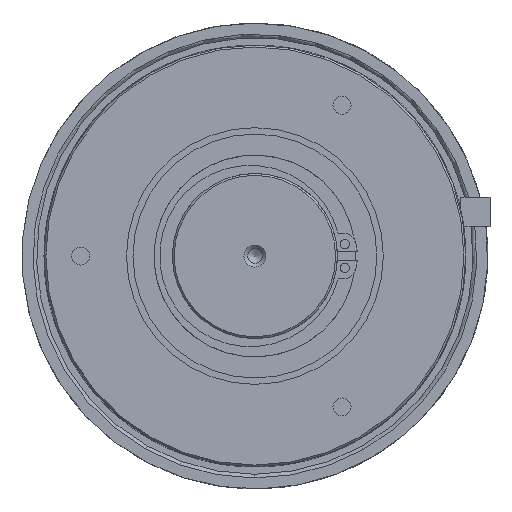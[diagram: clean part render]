
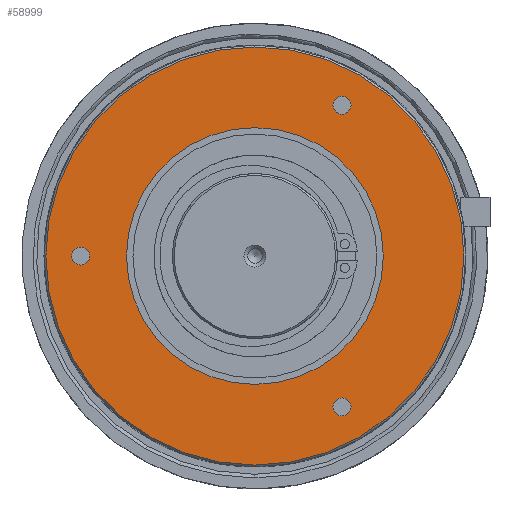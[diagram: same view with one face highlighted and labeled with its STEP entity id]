
A CAD part, left-side view. The second image highlights one B-rep face of the part: STEP entity #58999.
In plain terms, the highlighted planar face has unit normal (-1, 0, 0).
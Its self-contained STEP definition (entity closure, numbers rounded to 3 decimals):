
#11402=PLANE('',#67581);
#11803=FACE_BOUND('',#17701,.T.);
#11804=FACE_BOUND('',#17702,.T.);
#11805=FACE_BOUND('',#17703,.T.);
#11806=FACE_BOUND('',#17704,.T.);
#14651=FACE_OUTER_BOUND('',#17700,.T.);
#17700=EDGE_LOOP('',(#52777));
#17701=EDGE_LOOP('',(#52778));
#17702=EDGE_LOOP('',(#52779));
#17703=EDGE_LOOP('',(#52780));
#17704=EDGE_LOOP('',(#52781));
#20162=CIRCLE('',#67570,2.459);
#20164=CIRCLE('',#67573,2.459);
#20166=CIRCLE('',#67576,2.459);
#20168=CIRCLE('',#67580,35.);
#20169=CIRCLE('',#67582,57.);
#26117=VERTEX_POINT('',#114115);
#26119=VERTEX_POINT('',#114120);
#26121=VERTEX_POINT('',#114125);
#26123=VERTEX_POINT('',#114131);
#26124=VERTEX_POINT('',#114134);
#35002=EDGE_CURVE('',#26117,#26117,#20162,.T.);
#35004=EDGE_CURVE('',#26119,#26119,#20164,.T.);
#35006=EDGE_CURVE('',#26121,#26121,#20166,.T.);
#35008=EDGE_CURVE('',#26123,#26123,#20168,.T.);
#35009=EDGE_CURVE('',#26124,#26124,#20169,.T.);
#52777=ORIENTED_EDGE('',*,*,#35009,.F.);
#52778=ORIENTED_EDGE('',*,*,#35002,.T.);
#52779=ORIENTED_EDGE('',*,*,#35004,.T.);
#52780=ORIENTED_EDGE('',*,*,#35006,.T.);
#52781=ORIENTED_EDGE('',*,*,#35008,.T.);
#58999=ADVANCED_FACE('',(#14651,#11803,#11804,#11805,#11806),#11402,.T.);
#67570=AXIS2_PLACEMENT_3D('',#114116,#87427,#87428);
#67573=AXIS2_PLACEMENT_3D('',#114121,#87433,#87434);
#67576=AXIS2_PLACEMENT_3D('',#114126,#87439,#87440);
#67580=AXIS2_PLACEMENT_3D('',#114132,#87447,#87448);
#67581=AXIS2_PLACEMENT_3D('',#114133,#87449,#87450);
#67582=AXIS2_PLACEMENT_3D('',#114135,#87451,#87452);
#87427=DIRECTION('center_axis',(1.,0.,0.));
#87428=DIRECTION('ref_axis',(0.,0.,
1.));
#87433=DIRECTION('center_axis',(1.,0.,0.));
#87434=DIRECTION('ref_axis',(0.,0.,
1.));
#87439=DIRECTION('center_axis',(1.,0.,0.));
#87440=DIRECTION('ref_axis',(0.,0.,
1.));
#87447=DIRECTION('center_axis',(1.,0.,0.));
#87448=DIRECTION('ref_axis',(0.,1.,0.));
#87449=DIRECTION('center_axis',(-1.,0.,0.));
#87450=DIRECTION('ref_axis',(0.,0.,
1.));
#87451=DIRECTION('center_axis',(1.,0.,0.));
#87452=DIRECTION('ref_axis',(0.,1.,0.));
#114115=CARTESIAN_POINT('',(-30.5,-23.75,43.595));
#114116=CARTESIAN_POINT('Origin',(-30.5,-23.75,41.136));
#114120=CARTESIAN_POINT('',(-30.5,-23.75,-38.678));
#114121=CARTESIAN_POINT('Origin',(-30.5,-23.75,-41.136));
#114125=CARTESIAN_POINT('',(-30.5,47.5,2.459));
#114126=CARTESIAN_POINT('Origin',(-30.5,47.5,0.));
#114131=CARTESIAN_POINT('',(-30.5,35.,0.));
#114132=CARTESIAN_POINT('Origin',(-30.5,0.,0.));
#114133=CARTESIAN_POINT('Origin',(-30.5,46.,0.));
#114134=CARTESIAN_POINT('',(-30.5,57.,0.));
#114135=CARTESIAN_POINT('Origin',(-30.5,0.,0.));
